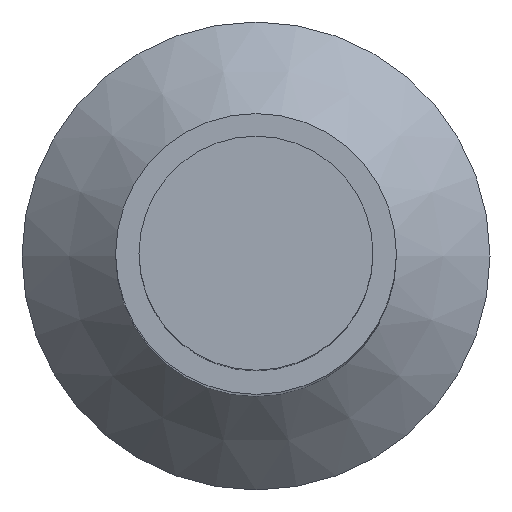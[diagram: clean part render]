
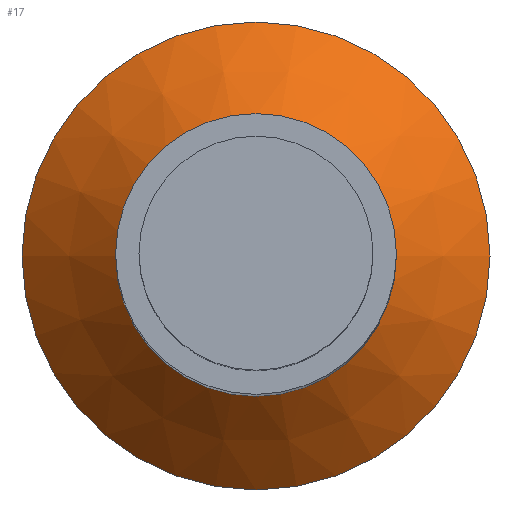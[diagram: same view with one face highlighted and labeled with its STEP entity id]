
A CAD part, top view. The second image highlights one B-rep face of the part: STEP entity #17.
In plain terms, the highlighted conical face has half-angle 45 degrees and reference radius 5 mm.
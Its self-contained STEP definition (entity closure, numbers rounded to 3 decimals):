
#17 = ADVANCED_FACE('',(#18),#31,.T.);
#18 = FACE_BOUND('',#19,.T.);
#19 = EDGE_LOOP('',(#20,#53,#76,#103));
#20 = ORIENTED_EDGE('',*,*,#21,.F.);
#21 = EDGE_CURVE('',#22,#22,#24,.T.);
#22 = VERTEX_POINT('',#23);
#23 = CARTESIAN_POINT('',(3.,0.,2.));
#24 = SURFACE_CURVE('',#25,(#30,#42),.PCURVE_S1.);
#25 = CIRCLE('',#26,3.);
#26 = AXIS2_PLACEMENT_3D('',#27,#28,#29);
#27 = CARTESIAN_POINT('',(0.,0.,2.));
#28 = DIRECTION('',(0.,0.,1.));
#29 = DIRECTION('',(1.,0.,-0.));
#30 = PCURVE('',#31,#36);
#31 = CONICAL_SURFACE('',#32,5.,0.785);
#32 = AXIS2_PLACEMENT_3D('',#33,#34,#35);
#33 = CARTESIAN_POINT('',(0.,0.,0.));
#34 = DIRECTION('',(-0.,-0.,-1.));
#35 = DIRECTION('',(1.,0.,-0.));
#36 = DEFINITIONAL_REPRESENTATION('',(#37),#41);
#37 = LINE('',#38,#39);
#38 = CARTESIAN_POINT('',(-0.,-2.));
#39 = VECTOR('',#40,1.);
#40 = DIRECTION('',(-1.,-0.));
#41 = ( GEOMETRIC_REPRESENTATION_CONTEXT(2) 
PARAMETRIC_REPRESENTATION_CONTEXT() REPRESENTATION_CONTEXT('2D SPACE',''
  ) );
#42 = PCURVE('',#43,#48);
#43 = CYLINDRICAL_SURFACE('',#44,3.);
#44 = AXIS2_PLACEMENT_3D('',#45,#46,#47);
#45 = CARTESIAN_POINT('',(0.,0.,2.));
#46 = DIRECTION('',(0.,0.,1.));
#47 = DIRECTION('',(1.,0.,-0.));
#48 = DEFINITIONAL_REPRESENTATION('',(#49),#52);
#49 = B_SPLINE_CURVE_WITH_KNOTS('',1,(#50,#51),.UNSPECIFIED.,.F.,.F.,(2,
    2),(0.,6.283),.PIECEWISE_BEZIER_KNOTS.);
#50 = CARTESIAN_POINT('',(0.,0.));
#51 = CARTESIAN_POINT('',(6.283,0.));
#52 = ( GEOMETRIC_REPRESENTATION_CONTEXT(2) 
PARAMETRIC_REPRESENTATION_CONTEXT() REPRESENTATION_CONTEXT('2D SPACE',''
  ) );
#53 = ORIENTED_EDGE('',*,*,#54,.F.);
#54 = EDGE_CURVE('',#55,#22,#57,.T.);
#55 = VERTEX_POINT('',#56);
#56 = CARTESIAN_POINT('',(5.,0.,0.));
#57 = SEAM_CURVE('',#58,(#62,#69),.PCURVE_S1.);
#58 = LINE('',#59,#60);
#59 = CARTESIAN_POINT('',(5.,0.,0.));
#60 = VECTOR('',#61,1.);
#61 = DIRECTION('',(-0.707,0.,0.707));
#62 = PCURVE('',#31,#63);
#63 = DEFINITIONAL_REPRESENTATION('',(#64),#68);
#64 = LINE('',#65,#66);
#65 = CARTESIAN_POINT('',(-6.283,0.));
#66 = VECTOR('',#67,1.);
#67 = DIRECTION('',(-0.,-1.));
#68 = ( GEOMETRIC_REPRESENTATION_CONTEXT(2) 
PARAMETRIC_REPRESENTATION_CONTEXT() REPRESENTATION_CONTEXT('2D SPACE',''
  ) );
#69 = PCURVE('',#31,#70);
#70 = DEFINITIONAL_REPRESENTATION('',(#71),#75);
#71 = LINE('',#72,#73);
#72 = CARTESIAN_POINT('',(0.,-0.));
#73 = VECTOR('',#74,1.);
#74 = DIRECTION('',(-0.,-1.));
#75 = ( GEOMETRIC_REPRESENTATION_CONTEXT(2) 
PARAMETRIC_REPRESENTATION_CONTEXT() REPRESENTATION_CONTEXT('2D SPACE',''
  ) );
#76 = ORIENTED_EDGE('',*,*,#77,.T.);
#77 = EDGE_CURVE('',#55,#55,#78,.T.);
#78 = SURFACE_CURVE('',#79,(#84,#91),.PCURVE_S1.);
#79 = CIRCLE('',#80,5.);
#80 = AXIS2_PLACEMENT_3D('',#81,#82,#83);
#81 = CARTESIAN_POINT('',(0.,0.,0.));
#82 = DIRECTION('',(0.,0.,1.));
#83 = DIRECTION('',(1.,0.,-0.));
#84 = PCURVE('',#31,#85);
#85 = DEFINITIONAL_REPRESENTATION('',(#86),#90);
#86 = LINE('',#87,#88);
#87 = CARTESIAN_POINT('',(-0.,-0.));
#88 = VECTOR('',#89,1.);
#89 = DIRECTION('',(-1.,-0.));
#90 = ( GEOMETRIC_REPRESENTATION_CONTEXT(2) 
PARAMETRIC_REPRESENTATION_CONTEXT() REPRESENTATION_CONTEXT('2D SPACE',''
  ) );
#91 = PCURVE('',#92,#97);
#92 = PLANE('',#93);
#93 = AXIS2_PLACEMENT_3D('',#94,#95,#96);
#94 = CARTESIAN_POINT('',(0.,0.,0.));
#95 = DIRECTION('',(0.,0.,1.));
#96 = DIRECTION('',(1.,0.,-0.));
#97 = DEFINITIONAL_REPRESENTATION('',(#98),#102);
#98 = CIRCLE('',#99,5.);
#99 = AXIS2_PLACEMENT_2D('',#100,#101);
#100 = CARTESIAN_POINT('',(0.,0.));
#101 = DIRECTION('',(1.,0.));
#102 = ( GEOMETRIC_REPRESENTATION_CONTEXT(2) 
PARAMETRIC_REPRESENTATION_CONTEXT() REPRESENTATION_CONTEXT('2D SPACE',''
  ) );
#103 = ORIENTED_EDGE('',*,*,#54,.T.);
